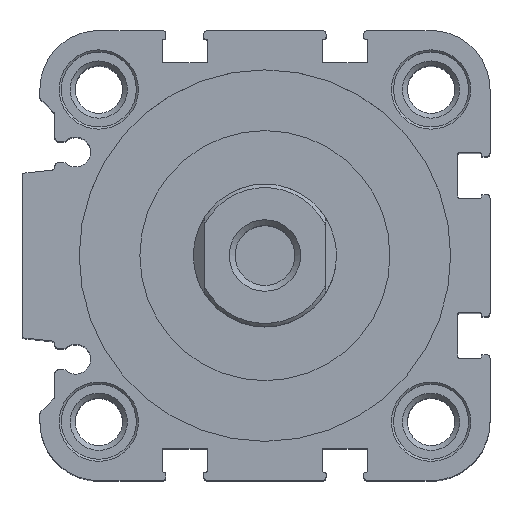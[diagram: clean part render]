
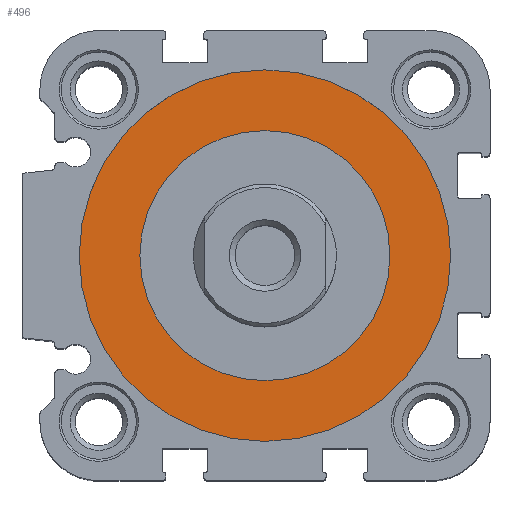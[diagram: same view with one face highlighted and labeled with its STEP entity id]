
A CAD part, top view. The second image highlights one B-rep face of the part: STEP entity #496.
In plain terms, the highlighted planar face has unit normal (0, 0, 1).
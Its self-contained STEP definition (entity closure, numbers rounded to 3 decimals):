
#496 = ADVANCED_FACE( '', ( #1095, #1096 ), #1097, .T. );
#1095 = FACE_BOUND( '', #1775, .T. );
#1096 = FACE_OUTER_BOUND( '', #1776, .T. );
#1097 = PLANE( '', #1777 );
#1775 = EDGE_LOOP( '', ( #3164 ) );
#1776 = EDGE_LOOP( '', ( #3165 ) );
#1777 = AXIS2_PLACEMENT_3D( '', #3166, #3167, #3168 );
#3164 = ORIENTED_EDGE( '', *, *, #4354, .F. );
#3165 = ORIENTED_EDGE( '', *, *, #3896, .T. );
#3166 = CARTESIAN_POINT( '', ( 0., 0., -2. ) );
#3167 = DIRECTION( '', ( 0., 0., 1. ) );
#3168 = DIRECTION( '', ( 1., 0., 0. ) );
#3896 = EDGE_CURVE( '', #4641, #4641, #4642, .T. );
#4354 = EDGE_CURVE( '', #5363, #5363, #5364, .T. );
#4641 = VERTEX_POINT( '', #5695 );
#4642 = CIRCLE( '', #5696, 26. );
#5363 = VERTEX_POINT( '', #6629 );
#5364 = CIRCLE( '', #6630, 17.5 );
#5695 = CARTESIAN_POINT( '', ( 26., 0., -2. ) );
#5696 = AXIS2_PLACEMENT_3D( '', #6923, #6924, #6925 );
#6629 = CARTESIAN_POINT( '', ( 17.5, 0., -2. ) );
#6630 = AXIS2_PLACEMENT_3D( '', #7609, #7610, #7611 );
#6923 = CARTESIAN_POINT( '', ( 0., 0., -2. ) );
#6924 = DIRECTION( '', ( 0., 0., 1. ) );
#6925 = DIRECTION( '', ( 1., 0., 0. ) );
#7609 = CARTESIAN_POINT( '', ( 0., 0., -2. ) );
#7610 = DIRECTION( '', ( 0., 0., 1. ) );
#7611 = DIRECTION( '', ( 1., 0., 0. ) );
